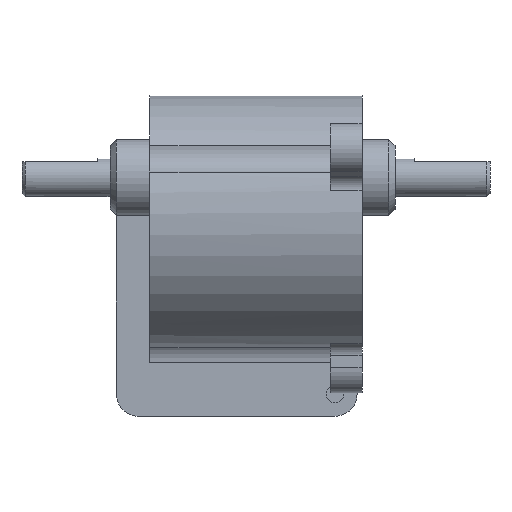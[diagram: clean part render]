
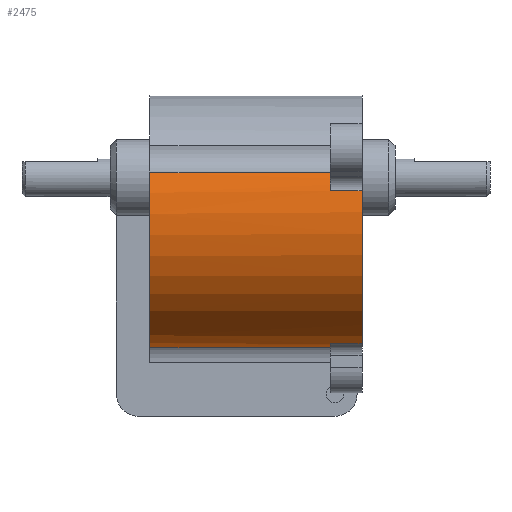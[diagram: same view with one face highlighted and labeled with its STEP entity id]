
A CAD part, left-side view. The second image highlights one B-rep face of the part: STEP entity #2475.
In plain terms, the highlighted cylindrical face has radius 20 mm (diameter 40 mm), a partial arc.
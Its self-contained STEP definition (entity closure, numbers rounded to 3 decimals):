
#170=CARTESIAN_POINT('',(-20.682,-9.3,10.247));
#171=VERTEX_POINT('',#170);
#179=CARTESIAN_POINT('',(-6.745,-9.3,-13.892));
#180=VERTEX_POINT('',#179);
#181=CARTESIAN_POINT('',(-1.291,-9.3,5.35));
#182=DIRECTION('',(0.0,-1.0,0.0));
#183=DIRECTION('',(1.0,0.0,0.0));
#184=AXIS2_PLACEMENT_3D('',#181,#182,#183);
#185=CIRCLE('',#184,20.0);
#186=EDGE_CURVE('',#171,#180,#185,.T.);
#1287=CARTESIAN_POINT('',(-6.745,-4.3,-13.892));
#1288=VERTEX_POINT('',#1287);
#1296=CARTESIAN_POINT('',(-3.753,-4.3,-14.498));
#1297=VERTEX_POINT('',#1296);
#1298=CARTESIAN_POINT('',(-1.291,-4.3,5.35));
#1299=DIRECTION('',(0.0,1.0,0.0));
#1300=DIRECTION('',(1.0,0.0,0.0));
#1301=AXIS2_PLACEMENT_3D('',#1298,#1299,#1300);
#1302=CIRCLE('',#1301,20.0);
#1303=EDGE_CURVE('',#1297,#1288,#1302,.T.);
#1331=CARTESIAN_POINT('',(-19.711,24.2,13.141));
#1332=VERTEX_POINT('',#1331);
#1364=CARTESIAN_POINT('',(-3.753,24.2,-14.498));
#1365=VERTEX_POINT('',#1364);
#1373=CARTESIAN_POINT('',(-1.291,24.2,5.35));
#1374=DIRECTION('',(0.0,-1.0,0.0));
#1375=DIRECTION('',(1.0,0.0,0.0));
#1376=AXIS2_PLACEMENT_3D('',#1373,#1374,#1375);
#1377=CIRCLE('',#1376,20.0);
#1378=EDGE_CURVE('',#1332,#1365,#1377,.T.);
#1399=CARTESIAN_POINT('',(-20.682,-4.3,10.247));
#1400=VERTEX_POINT('',#1399);
#1401=CARTESIAN_POINT('',(-19.711,-4.3,13.141));
#1402=VERTEX_POINT('',#1401);
#1403=CARTESIAN_POINT('',(-1.291,-4.3,5.35));
#1404=DIRECTION('',(0.0,1.0,0.0));
#1405=DIRECTION('',(1.0,0.0,0.0));
#1406=AXIS2_PLACEMENT_3D('',#1403,#1404,#1405);
#1407=CIRCLE('',#1406,20.0);
#1408=EDGE_CURVE('',#1400,#1402,#1407,.T.);
#1478=CARTESIAN_POINT('',(-3.753,24.2,-14.498));
#1479=DIRECTION('',(0.0,-1.0,0.0));
#1480=VECTOR('',#1479,28.5);
#1481=LINE('',#1478,#1480);
#1482=EDGE_CURVE('',#1365,#1297,#1481,.T.);
#1493=CARTESIAN_POINT('',(-19.711,-4.3,13.141));
#1494=DIRECTION('',(0.0,1.0,0.0));
#1495=VECTOR('',#1494,28.5);
#1496=LINE('',#1493,#1495);
#1497=EDGE_CURVE('',#1402,#1332,#1496,.T.);
#2446=CARTESIAN_POINT('',(-6.745,-9.3,-13.892));
#2447=DIRECTION('',(0.0,1.0,0.0));
#2448=VECTOR('',#2447,5.0);
#2449=LINE('',#2446,#2448);
#2450=EDGE_CURVE('',#180,#1288,#2449,.T.);
#2455=CARTESIAN_POINT('',(-1.291,-9.3,5.35));
#2456=DIRECTION('',(0.0,1.0,0.0));
#2457=DIRECTION('',(1.0,0.0,0.0));
#2458=AXIS2_PLACEMENT_3D('',#2455,#2456,#2457);
#2459=CYLINDRICAL_SURFACE('',#2458,20.0);
#2460=CARTESIAN_POINT('',(-20.682,-4.3,10.247));
#2461=DIRECTION('',(0.0,-1.0,0.0));
#2462=VECTOR('',#2461,5.0);
#2463=LINE('',#2460,#2462);
#2464=EDGE_CURVE('',#1400,#171,#2463,.T.);
#2465=ORIENTED_EDGE('',*,*,#2464,.F.);
#2466=ORIENTED_EDGE('',*,*,#1408,.T.);
#2467=ORIENTED_EDGE('',*,*,#1497,.T.);
#2468=ORIENTED_EDGE('',*,*,#1378,.T.);
#2469=ORIENTED_EDGE('',*,*,#1482,.T.);
#2470=ORIENTED_EDGE('',*,*,#1303,.T.);
#2471=ORIENTED_EDGE('',*,*,#2450,.F.);
#2472=ORIENTED_EDGE('',*,*,#186,.F.);
#2473=EDGE_LOOP('',(#2465,#2466,#2467,#2468,#2469,#2470,#2471,#2472));
#2474=FACE_OUTER_BOUND('',#2473,.T.);
#2475=ADVANCED_FACE('',(#2474),#2459,.T.);
